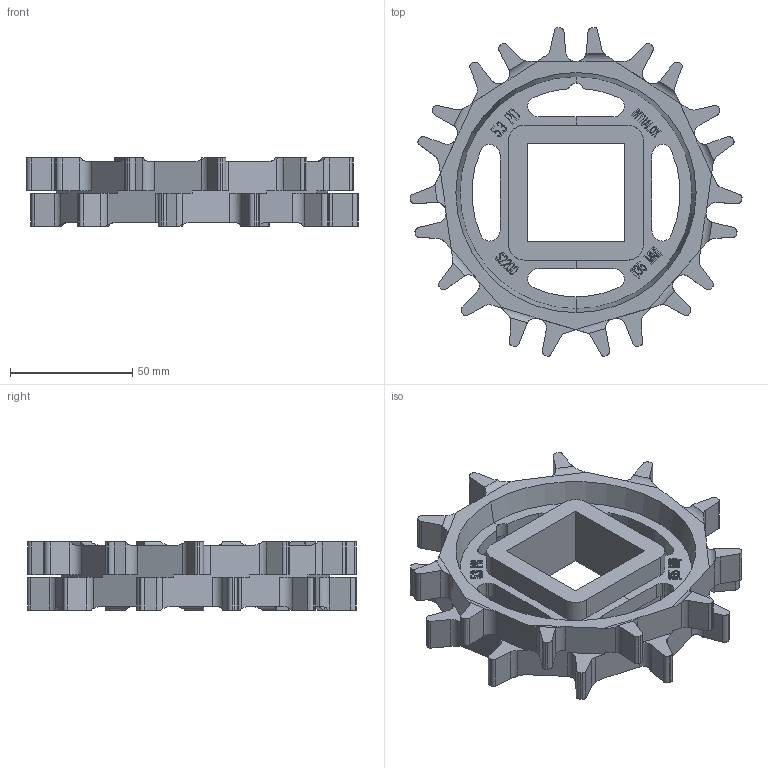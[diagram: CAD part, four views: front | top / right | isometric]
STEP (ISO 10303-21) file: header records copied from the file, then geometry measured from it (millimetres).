
FILE_DESCRIPTION((''),'2;1');
FILE_NAME('S2200_EZCLEAN_53X15_40_SQ','2008-12-12T',('jmumphre'),(''),'PRO/ENGINEER BY PARAMETRIC TECHNOLOGY CORPORATION, 2008150','PRO/ENGINEER BY PARAMETRIC TECHNOLOGY CORPORATION, 2008150','');
FILE_SCHEMA(('CONFIG_CONTROL_DESIGN'));
Length unit declared in the file: inch
Products named in the file (1): S2200_EZCLEAN_53X15_40_SQ
Bounding box: 135.97 x 134.61 x 27.94 mm (x, y, z)
Volume: 127870.2 mm3; surface area: 46097.6 mm2
Topology: 1 solids, 1 shells, 961 faces, 2827 edges, 1898 vertices
Faces by surface type: plane 781, cylinder 140, cone 40
Entity records: 34506 total; most frequent: CARTESIAN_POINT 11547, ORIENTED_EDGE 5654, DIRECTION 3473, EDGE_CURVE 2827, VERTEX_POINT 1898, B_SPLINE_CURVE_WITH_KNOTS 1480, AXIS2_PLACEMENT_3D 1165, VECTOR 1143
